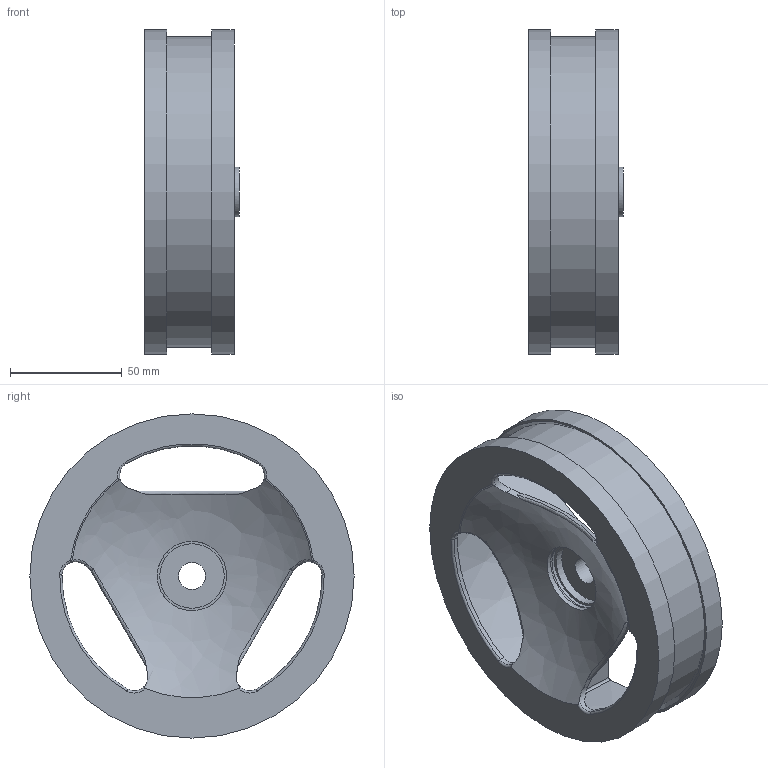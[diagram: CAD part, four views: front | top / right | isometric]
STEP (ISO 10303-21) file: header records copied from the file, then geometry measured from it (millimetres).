
FILE_DESCRIPTION( ( 'Unknown' ), '1' );
FILE_NAME( 'Z:/SThomas/TENTE/CUSTOMER-SUPPLIER COMMUNICATION/AFROX/AFROX-PJO 160 X 40 - WHEEL CENTRE.stp', 'Unknown', ( 'Unknown' ), ( 'Unknown' ), 'PSStep 10.1', 'Unknown', ' ' );
FILE_SCHEMA( ( 'AUTOMOTIVE_DESIGN { 1 0 10303 214 1 1 1 1 }' ) );
Length unit declared in the file: millimetre
Products named in the file (1): 1
Bounding box: 42.39 x 145 x 145 mm (x, y, z)
Volume: 146003.3 mm3; surface area: 76922.4 mm2
Topology: 1 solids, 1 shells, 153 faces, 383 edges, 231 vertices
Faces by surface type: bspline 53, plane 28, cylinder 28, torus 27, cone 9, sphere 8
Full cylindrical faces by diameter (mm): 12.106 x1, 28.801 x1, 31 x2, 138.768 x1, 145 x2
Entity records: 11807 total; most frequent: CARTESIAN_POINT 7394, ORIENTED_EDGE 738, DIRECTION 562, EDGE_CURVE 369, AXIS2_PLACEMENT_3D 257, VERTEX_POINT 229, EDGE_LOOP 172, B_SPLINE_CURVE_WITH_KNOTS 165
